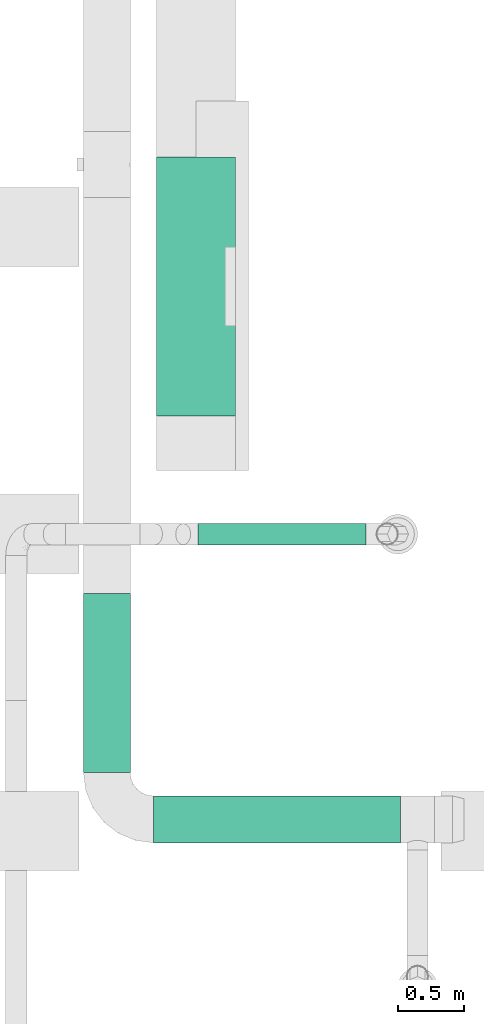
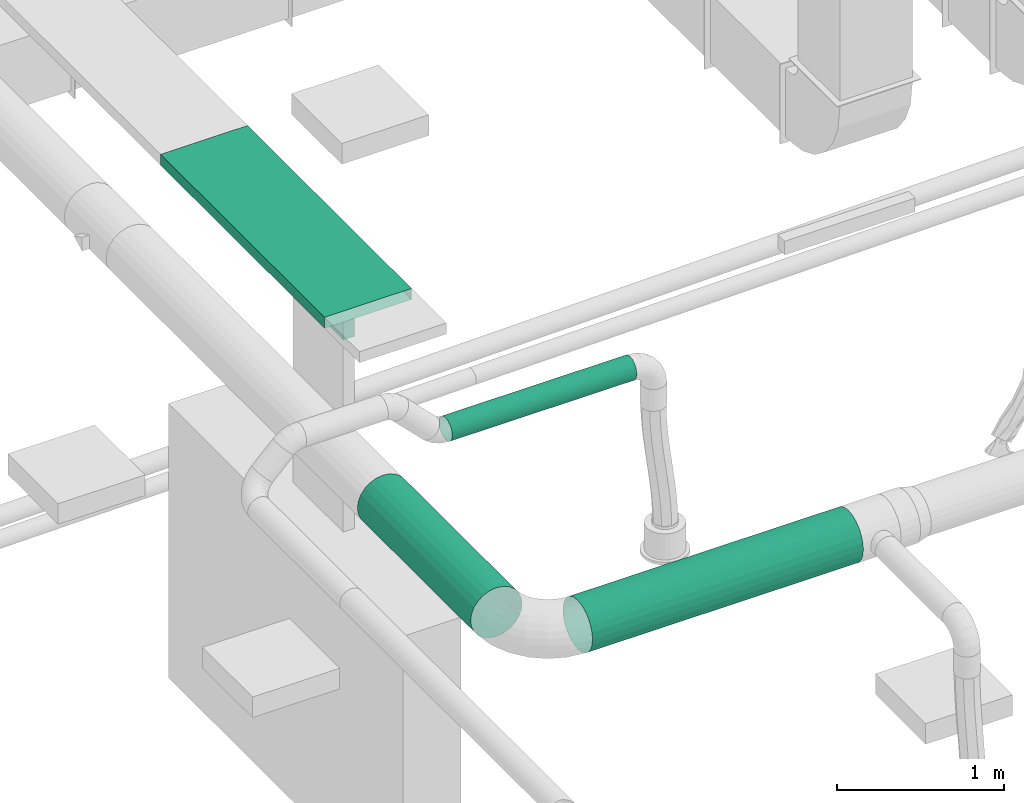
# One storey, part 202 of 374: 3 flow segments, 1 distribution element.
"""IFC2X3 building model written with IfcOpenShell, lengths in metres."""

from ifc_helpers import new_model, si_unit, direction, origin, place, context, subcontext, project, spatial, open_shell, surface_model, source, transform, mapped, element, save


model = new_model("IFC2X3")

# Units and contexts
model_context = context("Model", 3, precision=1e-05, world=origin(), true_north=direction((-0.4480736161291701, 0.8939966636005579)))
body_context = subcontext(model_context, "Body", "Model", "MODEL_VIEW")
ifc_project = project(units=[si_unit("LENGTHUNIT", "METRE"), si_unit("AREAUNIT", "SQUARE_METRE"), si_unit("VOLUMEUNIT", "CUBIC_METRE"), si_unit("PLANEANGLEUNIT", "RADIAN"), si_unit("THERMODYNAMICTEMPERATUREUNIT", "KELVIN"), si_unit("MASSUNIT", "GRAM", prefix="KILO"), si_unit("TIMEUNIT", "SECOND")], contexts=[model_context])

# Site, building, storey
site_placement = place(None, origin())
site = spatial("IfcSite", under=ifc_project, at=site_placement, Name="Site 1", CompositionType="ELEMENT")
building_placement = place(site_placement, origin())
building = spatial("IfcBuilding", under=site, at=building_placement, Name="Undefined", CompositionType="ELEMENT")
storey_placement = place(building_placement, origin())
storey = spatial("IfcBuildingStorey", under=building, at=storey_placement, Name="Rez de chauss\x8ee", CompositionType="ELEMENT", Elevation=0.0)

# Flow segments
shared_shape_1 = source(origin(), body_context, "Body", "SurfaceModel", [
    surface_model("IfcFaceBasedSurfaceModel", [(0.0, 0.046336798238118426, 0.0), (0.0, 0.0, 0.0), (1.3551837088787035, 0.0, 0.0), (1.3551837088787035, 0.04633679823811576, 0.0), (0.0, -0.044757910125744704, -0.0119928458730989), (1.3551837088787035, -0.04475791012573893, -0.0119928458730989), (0.0, -0.08488675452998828, -0.035161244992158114), (1.3551837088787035, -0.08488675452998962, -0.03516124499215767), (0.0, -0.11765181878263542, -0.06792630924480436), (1.3551837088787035, -0.1176518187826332, -0.0679263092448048), (0.0, -0.1408202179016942, -0.10805515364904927), (1.3551837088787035, -0.14082021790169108, -0.10805515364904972), (0.0, -0.15281306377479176, -0.15281306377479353), (1.3551837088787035, -0.15281306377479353, -0.1528130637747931), (0.0, -0.1528130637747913, -0.19914986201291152), (1.3551837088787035, -0.15281306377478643, -0.19914986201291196), (0.0, -0.14082021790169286, -0.24390777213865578), (1.3551837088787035, -0.14082021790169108, -0.24390777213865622), (0.0, -0.11765181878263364, -0.2840366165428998), (1.3551837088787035, -0.1176518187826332, -0.28403661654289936), (0.0, -0.0848867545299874, -0.31680168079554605), (1.3551837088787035, -0.08488675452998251, -0.3168016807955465), (0.0, -0.044757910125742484, -0.3399700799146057), (1.3551837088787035, -0.04475791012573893, -0.33997007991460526), (0.0, 1.776356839e-15, -0.35196292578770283), (1.3551837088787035, 0.0, -0.35196292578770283), (0.0, 0.0463367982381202, -0.3519629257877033), (1.3551837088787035, 0.04633679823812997, -0.3519629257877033), (0.0, 0.09109470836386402, -0.3399700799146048), (1.3551837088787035, 0.0910947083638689, -0.33997007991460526), (0.0, 0.13122355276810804, -0.31680168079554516), (1.3551837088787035, 0.13122355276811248, -0.3168016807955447), (0.0, 0.16398861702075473, -0.2840366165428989), (1.3551837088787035, 0.16398861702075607, -0.284036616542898), (0.0, 0.18715701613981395, -0.243907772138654), (1.3551837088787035, 0.18715701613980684, -0.24390777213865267), (0.0, 0.19914986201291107, -0.19914986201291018), (1.3551837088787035, 0.1991498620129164, -0.19914986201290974), (0.0, 0.19914986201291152, -0.15281306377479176), (1.3551837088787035, 0.1991498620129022, -0.15281306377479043), (0.0, 0.18715701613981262, -0.1080551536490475), (1.3551837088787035, 0.18715701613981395, -0.10805515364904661), (0.0, 0.1639886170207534, -0.06792630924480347), (1.3551837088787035, 0.16398861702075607, -0.06792630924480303), (0.0, 0.1312235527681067, -0.03516124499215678), (1.3551837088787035, 0.13122355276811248, -0.035161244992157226), (0.0, 0.09109470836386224, -0.011992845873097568), (1.3551837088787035, 0.0910947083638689, -0.011992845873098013)], [open_shell([[[0, 1, 2, 3]], [[1, 4, 5, 2]], [[4, 6, 7, 5]], [[6, 8, 9, 7]], [[8, 10, 11, 9]], [[10, 12, 13, 11]], [[12, 14, 15, 13]], [[14, 16, 17, 15]], [[16, 18, 19, 17]], [[18, 20, 21, 19]], [[20, 22, 23, 21]], [[22, 24, 25, 23]], [[24, 26, 27, 25]], [[26, 28, 29, 27]], [[28, 30, 31, 29]], [[30, 32, 33, 31]], [[32, 34, 35, 33]], [[34, 36, 37, 35]], [[36, 38, 39, 37]], [[38, 40, 41, 39]], [[40, 42, 43, 41]], [[42, 44, 45, 43]], [[44, 46, 47, 45]], [[46, 0, 3, 47]]])]),
])
flow_segment_1_placement = place(storey_placement, origin())
element("IfcFlowSegment", 1, at=flow_segment_1_placement, inside=storey, Name="Tube", ObjectType="Tube", context=body_context, shape_type="MappedRepresentation", body=[
    mapped(shared_shape_1, transform((45.89027681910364, 9.935183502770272, 3.9714518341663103), x_axis=(0.0, -1.0, 0.0), y_axis=(0.9914448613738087, 0.0, 0.13052619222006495), z_axis=(-0.13052619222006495, 0.0, 0.9914448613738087))),
])
shared_shape_2 = source(origin(), body_context, "Body", "SurfaceModel", [
    surface_model("IfcFaceBasedSurfaceModel", [(0.0, 0.046336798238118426, 0.0), (0.0, 0.0, 0.0), (1.8687833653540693, 0.0, -4.4408921e-16), (1.8687833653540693, 0.046336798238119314, -4.4408921e-16), (0.0, -0.044757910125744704, -0.0119928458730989), (1.8687833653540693, -0.04475791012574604, -0.011992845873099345), (0.0, -0.08488675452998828, -0.035161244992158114), (1.8687833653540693, -0.08488675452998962, -0.035161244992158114), (0.0, -0.11765181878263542, -0.06792630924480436), (1.8687833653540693, -0.11765181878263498, -0.0679263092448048), (0.0, -0.1408202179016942, -0.10805515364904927), (1.8687833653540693, -0.14082021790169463, -0.10805515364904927), (0.0, -0.15281306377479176, -0.15281306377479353), (1.8687833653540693, -0.15281306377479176, -0.1528130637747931), (0.0, -0.1528130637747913, -0.19914986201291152), (1.8687833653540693, -0.15281306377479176, -0.19914986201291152), (0.0, -0.14082021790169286, -0.24390777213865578), (1.8687833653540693, -0.14082021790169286, -0.24390777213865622), (0.0, -0.11765181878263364, -0.2840366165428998), (1.8687833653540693, -0.11765181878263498, -0.28403661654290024), (0.0, -0.0848867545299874, -0.31680168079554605), (1.8687833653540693, -0.08488675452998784, -0.3168016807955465), (0.0, -0.044757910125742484, -0.3399700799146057), (1.8687833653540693, -0.044757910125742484, -0.33997007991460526), (0.0, 1.776356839e-15, -0.35196292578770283), (1.8687833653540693, 1.776356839e-15, -0.3519629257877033), (0.0, 0.0463367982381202, -0.3519629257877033), (1.8687833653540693, 0.046336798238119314, -0.35196292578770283), (0.0, 0.09109470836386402, -0.3399700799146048), (1.8687833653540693, 0.09109470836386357, -0.3399700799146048), (0.0, 0.13122355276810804, -0.31680168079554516), (1.8687833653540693, 0.13122355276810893, -0.3168016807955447), (0.0, 0.16398861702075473, -0.2840366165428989), (1.8687833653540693, 0.16398861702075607, -0.2840366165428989), (0.0, 0.18715701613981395, -0.243907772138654), (1.8687833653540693, 0.18715701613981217, -0.243907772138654), (0.0, 0.19914986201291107, -0.19914986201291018), (1.8687833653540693, 0.19914986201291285, -0.19914986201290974), (0.0, 0.19914986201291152, -0.15281306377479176), (1.8687833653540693, 0.1991498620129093, -0.1528130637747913), (0.0, 0.18715701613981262, -0.1080551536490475), (1.8687833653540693, 0.18715701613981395, -0.1080551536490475), (0.0, 0.1639886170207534, -0.06792630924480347), (1.8687833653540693, 0.1639886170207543, -0.06792630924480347), (0.0, 0.1312235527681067, -0.03516124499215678), (1.8687833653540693, 0.13122355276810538, -0.03516124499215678), (0.0, 0.09109470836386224, -0.011992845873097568), (1.8687833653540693, 0.0910947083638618, -0.011992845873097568)], [open_shell([[[0, 1, 2, 3]], [[1, 4, 5, 2]], [[4, 6, 7, 5]], [[6, 8, 9, 7]], [[8, 10, 11, 9]], [[10, 12, 13, 11]], [[12, 14, 15, 13]], [[14, 16, 17, 15]], [[16, 18, 19, 17]], [[18, 20, 21, 19]], [[20, 22, 23, 21]], [[22, 24, 25, 23]], [[24, 26, 27, 25]], [[26, 28, 29, 27]], [[28, 30, 31, 29]], [[30, 32, 33, 31]], [[32, 34, 35, 33]], [[34, 36, 37, 35]], [[36, 38, 39, 37]], [[38, 40, 41, 39]], [[40, 42, 43, 41]], [[42, 44, 45, 43]], [[44, 46, 47, 45]], [[46, 0, 3, 47]]])]),
])
flow_segment_2_placement = place(storey_placement, origin())
element("IfcFlowSegment", 2, at=flow_segment_2_placement, inside=storey, Name="Tube", ObjectType="Tube", context=body_context, shape_type="MappedRepresentation", body=[
    mapped(shared_shape_2, transform((46.29121719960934, 8.17905941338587, 3.9714518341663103), x_axis=(1.0, 0.0, 0.0), y_axis=(0.0, 0.9914448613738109, 0.1305261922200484), z_axis=(0.0, -0.1305261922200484, 0.9914448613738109))),
])

# Distribution element
shared_shape_3 = source(origin(), body_context, "Body", "SurfaceModel", [
    surface_model("IfcFaceBasedSurfaceModel", [(0.0, 0.0, 0.0), (1.9600000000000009, 0.0, 0.0), (1.9600000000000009, 0.08000000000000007, 0.0), (0.0, 0.08000000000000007, 0.0), (1.9600000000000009, 0.0, -0.6000000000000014), (0.0, 0.0, -0.6000000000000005), (0.0, 0.08000000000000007, -0.6000000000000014), (1.9600000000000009, 0.08000000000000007, -0.6000000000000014), (1.3800000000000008, 0.08000000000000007, -0.6000000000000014), (1.3800000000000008, 0.08000000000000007, 0.0), (0.5800000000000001, 0.08000000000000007, 0.0), (0.5800000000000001, 0.08000000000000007, -0.6000000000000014), (1.3800000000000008, 0.08000000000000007, -0.0799999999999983), (0.5800000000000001, 0.08000000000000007, -0.0799999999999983), (1.2800000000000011, 0.7599999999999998, 0.0), (1.2800000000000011, 0.17999999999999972, 0.0), (1.2800000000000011, 0.17999999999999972, -0.0799999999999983), (1.2800000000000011, 0.7599999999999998, -0.0799999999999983), (0.6800000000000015, 0.17999999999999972, 0.0), (0.6800000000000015, 0.17999999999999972, -0.0799999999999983), (0.6800000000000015, 0.7599999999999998, 0.0), (0.6800000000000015, 0.7599999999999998, -0.0799999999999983)], [open_shell([[[0, 1, 2, 3]], [[4, 5, 6, 7]], [[4, 1, 0]], [[5, 4, 0]], [[2, 7, 8, 9]], [[10, 11, 6, 3]], [[12, 8, 11, 13]], [[14, 15, 16, 17]], [[15, 9, 12, 16]], [[10, 18, 19, 13]], [[18, 20, 21, 19]], [[17, 16, 13]], [[17, 13, 19]], [[17, 19, 21]], [[13, 16, 12]], [[10, 15, 14]], [[18, 10, 14]], [[20, 18, 14]], [[9, 15, 10]]])]),
])
distribution_element_placement = place(storey_placement, origin())
element("IfcDistributionElement", 3, at=distribution_element_placement, inside=storey, Name="Entonnoir, axial", ObjectType="Entonnoir, axial", context=body_context, shape_type="MappedRepresentation", body=[
    mapped(shared_shape_3, transform((46.911, 13.241730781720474, 4.18), x_axis=(0.0, -1.0, 0.0), y_axis=(0.0, 0.0, -1.0), z_axis=(1.0, 0.0, 0.0))),
])

# Flow segment
shared_shape_4 = source(origin(), body_context, "Body", "SurfaceModel", [
    surface_model("IfcFaceBasedSurfaceModel", [(0.0, 0.020884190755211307, 0.0), (0.0, 0.0, 0.0), (1.2734000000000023, -4.4408921e-16, 0.0), (1.2734000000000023, 0.0208841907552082, 0.0), (0.0, -0.020172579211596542, -0.005405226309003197), (1.2734000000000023, -0.020172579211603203, -0.005405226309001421), (0.0, -0.03825881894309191, -0.015847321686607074), (1.2734000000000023, -0.03825881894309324, -0.015847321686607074), (0.0, -0.05302617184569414, -0.0306146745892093), (1.2734000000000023, -0.05302617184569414, -0.030614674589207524), (0.0, -0.06346826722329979, -0.04870091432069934), (1.2734000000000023, -0.06346826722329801, -0.04870091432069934), (0.0, -0.06887349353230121, -0.06887349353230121), (1.2734000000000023, -0.06887349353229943, -0.06887349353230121), (0.0, -0.06887349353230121, -0.08975768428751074), (1.2734000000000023, -0.06887349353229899, -0.08975768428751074), (0.0, -0.06346826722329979, -0.10993026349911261), (1.2734000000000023, -0.06346826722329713, -0.10993026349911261), (0.0, -0.05302617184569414, -0.12801650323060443), (1.2734000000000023, -0.05302617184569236, -0.12801650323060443), (0.0, -0.038258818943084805, -0.14278385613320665), (1.2734000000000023, -0.03825881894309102, -0.14278385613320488), (0.0, -0.020172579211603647, -0.15322595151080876), (1.2734000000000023, -0.020172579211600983, -0.15322595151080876), (0.0, 7.105427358e-15, -0.15863117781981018), (1.2734000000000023, 2.664535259e-15, -0.15863117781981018), (0.0, 0.020884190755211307, -0.15863117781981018), (1.2734000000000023, 0.02088419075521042, -0.15863117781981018), (0.0, 0.04105676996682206, -0.15322595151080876), (1.2734000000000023, 0.041056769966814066, -0.15322595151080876), (0.0, 0.05914300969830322, -0.1427838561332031), (1.2734000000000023, 0.059143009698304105, -0.14278385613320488), (0.0, 0.07391036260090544, -0.12801650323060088), (1.2734000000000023, 0.073910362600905, -0.12801650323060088), (0.0, 0.0843524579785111, -0.10993026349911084), (1.2734000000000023, 0.08435245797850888, -0.10993026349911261), (0.0, 0.08975768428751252, -0.08975768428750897), (1.2734000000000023, 0.08975768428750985, -0.08975768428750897), (0.0, 0.08975768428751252, -0.06887349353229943), (1.2734000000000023, 0.08975768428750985, -0.06887349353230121), (0.0, 0.0843524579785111, -0.048700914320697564), (1.2734000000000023, 0.08435245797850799, -0.04870091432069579), (0.0, 0.07391036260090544, -0.030614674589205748), (1.2734000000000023, 0.07391036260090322, -0.030614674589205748), (0.0, 0.05914300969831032, -0.015847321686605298), (1.2734000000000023, 0.05914300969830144, -0.01584732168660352), (0.0, 0.04105676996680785, -0.005405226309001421), (1.2734000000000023, 0.04105676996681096, -0.005405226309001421)], [open_shell([[[0, 1, 2, 3]], [[1, 4, 5, 2]], [[4, 6, 7, 5]], [[6, 8, 9, 7]], [[8, 10, 11, 9]], [[10, 12, 13, 11]], [[12, 14, 15, 13]], [[14, 16, 17, 15]], [[16, 18, 19, 17]], [[18, 20, 21, 19]], [[20, 22, 23, 21]], [[22, 24, 25, 23]], [[24, 26, 27, 25]], [[26, 28, 29, 27]], [[28, 30, 31, 29]], [[30, 32, 33, 31]], [[32, 34, 35, 33]], [[34, 36, 37, 35]], [[36, 38, 39, 37]], [[38, 40, 41, 39]], [[40, 42, 43, 41]], [[42, 44, 45, 43]], [[44, 46, 47, 45]], [[46, 0, 3, 47]]])]),
])
flow_segment_3_placement = place(storey_placement, origin())
element("IfcFlowSegment", 4, at=flow_segment_3_placement, inside=storey, Name="Tube", ObjectType="Tube", context=body_context, shape_type="MappedRepresentation", body=[
    mapped(shared_shape_4, transform((46.62780837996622, 10.30835850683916, 3.779294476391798), x_axis=(1.0, 0.0, 0.0), y_axis=(0.0, -0.1305261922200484, 0.9914448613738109), z_axis=(0.0, -0.9914448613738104, -0.13052619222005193))),
])

save(model, "model.ifc")
